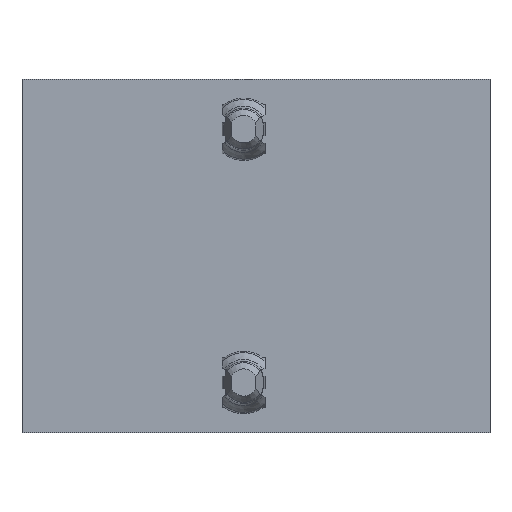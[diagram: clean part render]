
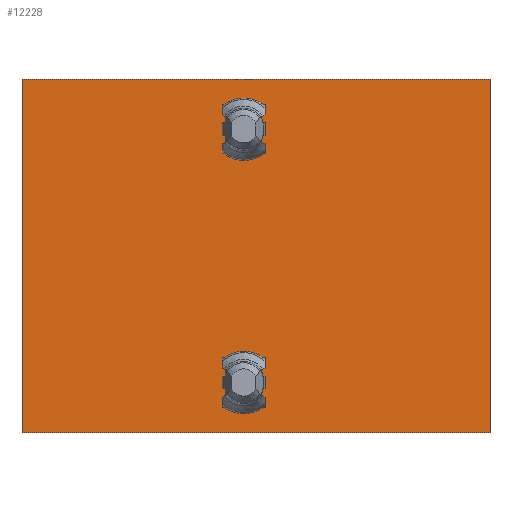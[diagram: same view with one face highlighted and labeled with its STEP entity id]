
A CAD part, top view. The second image highlights one B-rep face of the part: STEP entity #12228.
In plain terms, the highlighted planar face has unit normal (0, 0, 1).
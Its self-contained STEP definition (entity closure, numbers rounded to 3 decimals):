
#1241=ORIENTED_EDGE('',*,*,#4520,.T.);
#1242=ORIENTED_EDGE('',*,*,#4628,.F.);
#1243=ORIENTED_EDGE('',*,*,#4523,.F.);
#1244=ORIENTED_EDGE('',*,*,#4639,.T.);
#1245=ORIENTED_EDGE('',*,*,#4773,.T.);
#1246=ORIENTED_EDGE('',*,*,#4774,.F.);
#1247=ORIENTED_EDGE('',*,*,#4775,.F.);
#1248=ORIENTED_EDGE('',*,*,#4776,.T.);
#1249=ORIENTED_EDGE('',*,*,#4650,.F.);
#1250=ORIENTED_EDGE('',*,*,#4761,.T.);
#1251=ORIENTED_EDGE('',*,*,#4646,.T.);
#1252=ORIENTED_EDGE('',*,*,#4772,.F.);
#4520=EDGE_CURVE('',#6388,#6390,#7638,.T.);
#4523=EDGE_CURVE('',#6393,#6394,#7641,.T.);
#4628=EDGE_CURVE('',#6394,#6390,#7684,.T.);
#4639=EDGE_CURVE('',#6393,#6388,#7693,.T.);
#4646=EDGE_CURVE('',#6477,#6475,#7698,.T.);
#4650=EDGE_CURVE('',#6479,#6481,#7702,.T.);
#4761=EDGE_CURVE('',#6479,#6477,#7749,.T.);
#4772=EDGE_CURVE('',#6481,#6475,#7758,.T.);
#4773=EDGE_CURVE('',#6563,#6564,#7759,.T.);
#4774=EDGE_CURVE('',#6565,#6564,#7760,.T.);
#4775=EDGE_CURVE('',#6566,#6565,#7761,.T.);
#4776=EDGE_CURVE('',#6566,#6563,#7762,.T.);
#6388=VERTEX_POINT('',#17523);
#6390=VERTEX_POINT('',#17527);
#6393=VERTEX_POINT('',#17534);
#6394=VERTEX_POINT('',#17536);
#6475=VERTEX_POINT('',#17883);
#6477=VERTEX_POINT('',#17886);
#6479=VERTEX_POINT('',#17892);
#6481=VERTEX_POINT('',#17895);
#6563=VERTEX_POINT('',#18244);
#6564=VERTEX_POINT('',#18245);
#6565=VERTEX_POINT('',#18247);
#6566=VERTEX_POINT('',#18249);
#7638=LINE('',#17528,#8962);
#7641=LINE('',#17535,#8965);
#7684=LINE('',#17851,#9008);
#7693=LINE('',#17871,#9017);
#7698=LINE('',#17885,#9022);
#7702=LINE('',#17894,#9026);
#7749=LINE('',#18220,#9073);
#7758=LINE('',#18240,#9082);
#7759=LINE('',#18243,#9083);
#7760=LINE('',#18246,#9084);
#7761=LINE('',#18248,#9085);
#7762=LINE('',#18250,#9086);
#8962=VECTOR('',#14066,1000.);
#8965=VECTOR('',#14071,1000.);
#9008=VECTOR('',#14226,1000.);
#9017=VECTOR('',#14245,1000.);
#9022=VECTOR('',#14260,1000.);
#9026=VECTOR('',#14266,1000.);
#9073=VECTOR('',#14431,1000.);
#9082=VECTOR('',#14450,1000.);
#9083=VECTOR('',#14455,1000.);
#9084=VECTOR('',#14456,1000.);
#9085=VECTOR('',#14457,1000.);
#9086=VECTOR('',#14458,1000.);
#10357=EDGE_LOOP('',(#1241,#1242,#1243,#1244));
#10358=EDGE_LOOP('',(#1245,#1246,#1247,#1248));
#10359=EDGE_LOOP('',(#1249,#1250,#1251,#1252));
#11055=FACE_BOUND('',#10357,.T.);
#11056=FACE_BOUND('',#10358,.T.);
#11057=FACE_BOUND('',#10359,.T.);
#11721=PLANE('',#13126);
#12228=ADVANCED_FACE('',(#11055,#11056,#11057),#11721,.T.);
#13126=AXIS2_PLACEMENT_3D('',#18242,#14453,#14454);
#14066=DIRECTION('',(0.,-1.,0.));
#14071=DIRECTION('',(0.,-1.,0.));
#14226=DIRECTION('',(1.,0.,0.));
#14245=DIRECTION('',(1.,0.,0.));
#14260=DIRECTION('',(0.,-1.,0.));
#14266=DIRECTION('',(0.,-1.,0.));
#14431=DIRECTION('',(1.,0.,0.));
#14450=DIRECTION('',(1.,0.,0.));
#14453=DIRECTION('',(0.,0.,1.));
#14454=DIRECTION('',(1.,0.,0.));
#14455=DIRECTION('',(0.,1.,0.));
#14456=DIRECTION('',(1.,0.,0.));
#14457=DIRECTION('',(0.,1.,0.));
#14458=DIRECTION('',(1.,0.,0.));
#17523=CARTESIAN_POINT('',(1.7,10.5,0.));
#17527=CARTESIAN_POINT('',(1.7,9.5,0.));
#17528=CARTESIAN_POINT('',(1.7,10.5,0.));
#17534=CARTESIAN_POINT('',(-1.7,10.5,0.));
#17535=CARTESIAN_POINT('',(-1.7,10.5,0.));
#17536=CARTESIAN_POINT('',(-1.7,9.5,0.));
#17851=CARTESIAN_POINT('',(-1.7,9.5,0.));
#17871=CARTESIAN_POINT('',(-1.7,10.5,0.));
#17883=CARTESIAN_POINT('',(1.7,-10.5,0.));
#17885=CARTESIAN_POINT('',(1.7,-9.5,0.));
#17886=CARTESIAN_POINT('',(1.7,-9.5,0.));
#17892=CARTESIAN_POINT('',(-1.7,-9.5,0.));
#17894=CARTESIAN_POINT('',(-1.7,-9.5,0.));
#17895=CARTESIAN_POINT('',(-1.7,-10.5,0.));
#18220=CARTESIAN_POINT('',(-1.7,-9.5,0.));
#18240=CARTESIAN_POINT('',(-1.7,-10.5,0.));
#18242=CARTESIAN_POINT('',(19.453,-13.95,0.));
#18243=CARTESIAN_POINT('',(19.453,-13.95,0.));
#18244=CARTESIAN_POINT('',(19.453,-13.95,0.));
#18245=CARTESIAN_POINT('',(19.453,13.95,0.));
#18246=CARTESIAN_POINT('',(19.453,13.95,0.));
#18247=CARTESIAN_POINT('',(-17.5,13.95,0.));
#18248=CARTESIAN_POINT('',(-17.5,-13.95,0.));
#18249=CARTESIAN_POINT('',(-17.5,-13.95,0.));
#18250=CARTESIAN_POINT('',(19.453,-13.95,0.));
